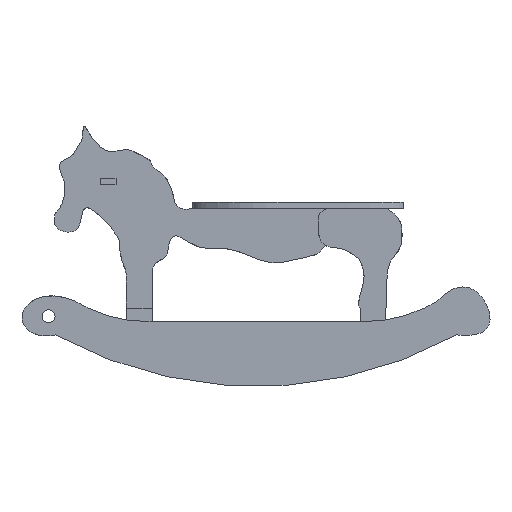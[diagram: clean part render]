
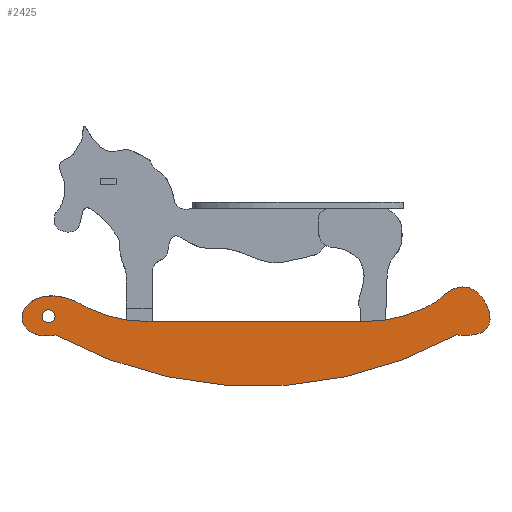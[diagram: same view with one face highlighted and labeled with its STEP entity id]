
A CAD part, front view. The second image highlights one B-rep face of the part: STEP entity #2425.
In plain terms, the highlighted planar face has unit normal (0, -1, 0).
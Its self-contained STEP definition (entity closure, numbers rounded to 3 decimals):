
#36=CIRCLE('',#2591,12.5);
#37=CIRCLE('',#2593,725.556);
#39=CIRCLE('',#2596,245.);
#41=CIRCLE('',#2600,245.);
#43=CIRCLE('',#2603,725.556);
#45=CIRCLE('',#2606,800.556);
#126=FACE_BOUND('',#440,.T.);
#155=(
BOUNDED_CURVE()
B_SPLINE_CURVE(5,(#9798,#9799,#9800,#9801,#9802,#9803,#9804,#9805,#9806,
#9807,#9808,#9809,#9810,#9811,#9812,#9813,#9814,#9815,#9816,#9817),
 .UNSPECIFIED.,.F.,.F.)
B_SPLINE_CURVE_WITH_KNOTS((6,1,1,1,1,1,1,1,1,1,1,1,1,1,1,6),(0.,0.067,
0.133,0.2,0.267,0.333,0.4,0.467,
0.533,0.6,0.667,0.733,0.8,0.867,
0.933,1.),.UNSPECIFIED.)
CURVE()
GEOMETRIC_REPRESENTATION_ITEM()
RATIONAL_B_SPLINE_CURVE((1.,1.,1.,1.,1.,1.,1.,1.,1.,1.,1.,1.,1.,1.,1.,1.,
1.,1.,1.,1.))
REPRESENTATION_ITEM('')
);
#157=(
BOUNDED_CURVE()
B_SPLINE_CURVE(5,(#9886,#9887,#9888,#9889,#9890,#9891,#9892,#9893,#9894,
#9895,#9896,#9897,#9898,#9899,#9900,#9901,#9902,#9903,#9904,#9905),
 .UNSPECIFIED.,.F.,.F.)
B_SPLINE_CURVE_WITH_KNOTS((6,1,1,1,1,1,1,1,1,1,1,1,1,1,1,6),(0.,0.067,
0.133,0.2,0.267,0.333,0.4,0.467,
0.533,0.6,0.667,0.733,0.8,0.867,
0.933,1.),.UNSPECIFIED.)
CURVE()
GEOMETRIC_REPRESENTATION_ITEM()
RATIONAL_B_SPLINE_CURVE((1.,1.,1.,1.,1.,1.,1.,1.,1.,1.,1.,1.,1.,1.,1.,1.,
1.,1.,1.,1.))
REPRESENTATION_ITEM('')
);
#289=FACE_OUTER_BOUND('',#439,.T.);
#439=EDGE_LOOP('',(#2185,#2186,#2187,#2188,#2189,#2190,#2191,#2192));
#440=EDGE_LOOP('',(#2193));
#702=LINE('',#9741,#970);
#970=VECTOR('',#3134,10.);
#1181=VERTEX_POINT('',#9721);
#1182=VERTEX_POINT('',#9725);
#1183=VERTEX_POINT('',#9726);
#1186=VERTEX_POINT('',#9734);
#1188=VERTEX_POINT('',#9740);
#1190=VERTEX_POINT('',#9746);
#1192=VERTEX_POINT('',#9752);
#1194=VERTEX_POINT('',#9797);
#1196=VERTEX_POINT('',#9841);
#1505=EDGE_CURVE('',#1181,#1181,#36,.T.);
#1506=EDGE_CURVE('',#1182,#1183,#37,.T.);
#1510=EDGE_CURVE('',#1183,#1186,#39,.T.);
#1513=EDGE_CURVE('',#1188,#1186,#702,.T.);
#1516=EDGE_CURVE('',#1188,#1190,#41,.T.);
#1519=EDGE_CURVE('',#1190,#1192,#43,.T.);
#1522=EDGE_CURVE('',#1192,#1194,#155,.T.);
#1525=EDGE_CURVE('',#1196,#1194,#45,.T.);
#1528=EDGE_CURVE('',#1182,#1196,#157,.T.);
#2185=ORIENTED_EDGE('',*,*,#1528,.F.);
#2186=ORIENTED_EDGE('',*,*,#1506,.T.);
#2187=ORIENTED_EDGE('',*,*,#1510,.T.);
#2188=ORIENTED_EDGE('',*,*,#1513,.F.);
#2189=ORIENTED_EDGE('',*,*,#1516,.T.);
#2190=ORIENTED_EDGE('',*,*,#1519,.T.);
#2191=ORIENTED_EDGE('',*,*,#1522,.T.);
#2192=ORIENTED_EDGE('',*,*,#1525,.F.);
#2193=ORIENTED_EDGE('',*,*,#1505,.F.);
#2294=PLANE('',#2609);
#2425=ADVANCED_FACE('',(#289,#126),#2294,.F.);
#2591=AXIS2_PLACEMENT_3D('',#9723,#3115,#3116);
#2593=AXIS2_PLACEMENT_3D('',#9727,#3119,#3120);
#2596=AXIS2_PLACEMENT_3D('',#9735,#3127,#3128);
#2600=AXIS2_PLACEMENT_3D('',#9747,#3139,#3140);
#2603=AXIS2_PLACEMENT_3D('',#9753,#3146,#3147);
#2606=AXIS2_PLACEMENT_3D('',#9842,#3154,#3155);
#2609=AXIS2_PLACEMENT_3D('',#9927,#3161,#3162);
#3115=DIRECTION('center_axis',(0.,-1.,0.));
#3116=DIRECTION('ref_axis',(1.,0.,0.));
#3119=DIRECTION('center_axis',(0.,1.,0.));
#3120=DIRECTION('ref_axis',(0.482,0.,-0.876));
#3127=DIRECTION('center_axis',(0.,1.,0.));
#3128=DIRECTION('ref_axis',(0.446,0.,-0.895));
#3134=DIRECTION('',(1.,0.,0.));
#3139=DIRECTION('center_axis',(0.,1.,0.));
#3140=DIRECTION('ref_axis',(0.,0.,-1.));
#3146=DIRECTION('center_axis',(0.,1.,0.));
#3147=DIRECTION('ref_axis',(-0.446,0.,-0.895));
#3154=DIRECTION('center_axis',(0.,1.,0.));
#3155=DIRECTION('ref_axis',(0.482,0.,-0.876));
#3161=DIRECTION('center_axis',(0.,1.,0.));
#3162=DIRECTION('ref_axis',(1.,0.,0.));
#9721=CARTESIAN_POINT('',(-412.5,0.,-40.));
#9723=CARTESIAN_POINT('Origin',(-400.,0.,-40.));
#9725=CARTESIAN_POINT('',(350.,0.,-10.));
#9726=CARTESIAN_POINT('',(323.363,0.,-23.958));
#9727=CARTESIAN_POINT('Origin',(0.,0.,625.556));
#9734=CARTESIAN_POINT('',(214.172,0.,-49.635));
#9735=CARTESIAN_POINT('Origin',(214.172,0.,195.365));
#9740=CARTESIAN_POINT('',(-214.172,0.,-49.635));
#9741=CARTESIAN_POINT('',(-214.172,0.,-49.635));
#9746=CARTESIAN_POINT('',(-323.363,0.,-23.958));
#9747=CARTESIAN_POINT('Origin',(-214.172,0.,195.365));
#9752=CARTESIAN_POINT('',(-350.,0.,-10.));
#9753=CARTESIAN_POINT('Origin',(0.,0.,625.556));
#9797=CARTESIAN_POINT('',(-386.179,0.,-75.697));
#9798=CARTESIAN_POINT('Ctrl Pts',(-350.,0.,-10.));
#9799=CARTESIAN_POINT('Ctrl Pts',(-353.351,0.,-8.676));
#9800=CARTESIAN_POINT('Ctrl Pts',(-359.979,0.,-6.261));
#9801=CARTESIAN_POINT('Ctrl Pts',(-369.696,0.,-3.336));
#9802=CARTESIAN_POINT('Ctrl Pts',(-382.203,0.,-0.841));
#9803=CARTESIAN_POINT('Ctrl Pts',(-397.029,0.,-0.11));
#9804=CARTESIAN_POINT('Ctrl Pts',(-410.91,0.,-1.803));
#9805=CARTESIAN_POINT('Ctrl Pts',(-423.594,0.,-5.898));
#9806=CARTESIAN_POINT('Ctrl Pts',(-434.691,0.,-12.277));
#9807=CARTESIAN_POINT('Ctrl Pts',(-443.623,0.,-20.653));
#9808=CARTESIAN_POINT('Ctrl Pts',(-449.657,0.,-30.552));
#9809=CARTESIAN_POINT('Ctrl Pts',(-452.092,0.,-41.345));
#9810=CARTESIAN_POINT('Ctrl Pts',(-450.394,0.,-52.27));
#9811=CARTESIAN_POINT('Ctrl Pts',(-444.402,0.,-62.441));
#9812=CARTESIAN_POINT('Ctrl Pts',(-434.443,0.,-70.876));
#9813=CARTESIAN_POINT('Ctrl Pts',(-421.094,0.,-76.609));
#9814=CARTESIAN_POINT('Ctrl Pts',(-408.216,0.,-78.352));
#9815=CARTESIAN_POINT('Ctrl Pts',(-397.559,0.,-77.784));
#9816=CARTESIAN_POINT('Ctrl Pts',(-390.041,0.,-76.537));
#9817=CARTESIAN_POINT('Ctrl Pts',(-386.179,0.,-75.697));
#9841=CARTESIAN_POINT('',(386.179,0.,-75.697));
#9842=CARTESIAN_POINT('Origin',(0.,0.,625.556));
#9886=CARTESIAN_POINT('Ctrl Pts',(350.,0.,-10.));
#9887=CARTESIAN_POINT('Ctrl Pts',(353.001,0.,-6.856));
#9888=CARTESIAN_POINT('Ctrl Pts',(358.962,0.,-1.028));
#9889=CARTESIAN_POINT('Ctrl Pts',(367.776,0.,6.334));
#9890=CARTESIAN_POINT('Ctrl Pts',(379.273,0.,13.372));
#9891=CARTESIAN_POINT('Ctrl Pts',(393.171,0.,17.472));
#9892=CARTESIAN_POINT('Ctrl Pts',(406.474,0.,16.887));
#9893=CARTESIAN_POINT('Ctrl Pts',(418.951,0.,11.818));
#9894=CARTESIAN_POINT('Ctrl Pts',(430.231,0.,2.773));
#9895=CARTESIAN_POINT('Ctrl Pts',(439.758,0.,-9.269));
#9896=CARTESIAN_POINT('Ctrl Pts',(446.864,0.,-23.024));
#9897=CARTESIAN_POINT('Ctrl Pts',(450.857,0.,-37.105));
#9898=CARTESIAN_POINT('Ctrl Pts',(451.104,0.,-50.195));
#9899=CARTESIAN_POINT('Ctrl Pts',(447.133,0.,-61.225));
#9900=CARTESIAN_POINT('Ctrl Pts',(438.744,0.,-69.572));
#9901=CARTESIAN_POINT('Ctrl Pts',(425.917,0.,-74.936));
#9902=CARTESIAN_POINT('Ctrl Pts',(412.158,0.,-76.766));
#9903=CARTESIAN_POINT('Ctrl Pts',(399.913,0.,-76.763));
#9904=CARTESIAN_POINT('Ctrl Pts',(390.899,0.,-76.153));
#9905=CARTESIAN_POINT('Ctrl Pts',(386.179,0.,-75.697));
#9927=CARTESIAN_POINT('Origin',(-0.494,0.,-78.764));
